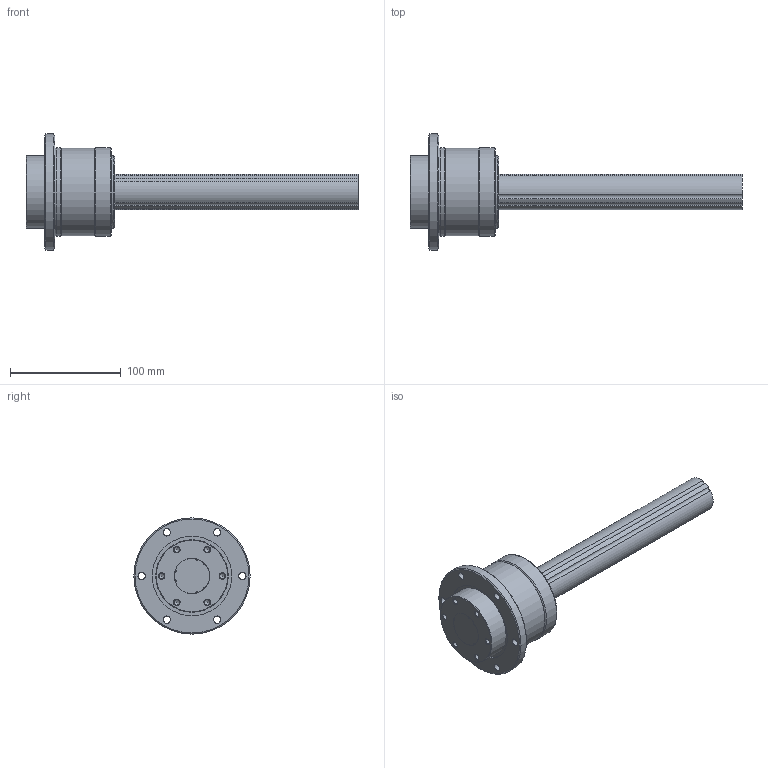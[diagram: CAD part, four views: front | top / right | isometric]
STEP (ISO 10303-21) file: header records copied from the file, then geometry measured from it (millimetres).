
FILE_DESCRIPTION(/* description */ ('STEP AP214'),/* implementation_level */ '2;1');
FILE_NAME(/* name */ 'LTR32+300L(00-)',/* time_stamp */ '2024-09-04T12:26:32+02:00',/* author */ ('License CC BY-ND 4.0'),/* organization */ ('CADENAS'),/* preprocessor_version */ 'ST-DEVELOPER v19.3',/* originating_system */ 'PARTsolutions',/* authorisation */ ' ');
FILE_SCHEMA (('AUTOMOTIVE_DESIGN {1 0 10303 214 3 1 1}'));
Length unit declared in the file: millimetre
Products named in the file (3): LTR32+300L(00-); LTR 32300 CTLTR Shaft; LTR 32 CTLTR Cyl
Assembly tree (3 placements, depth 2):
  LTR32+300L(00-)
    LTR 32300 CTLTR Shaft
    LTR 32 CTLTR Cyl  x2
Bounding box: 300 x 105 x 105 mm (x, y, z)
Volume: 886031.8 mm3; surface area: 129423.4 mm2
Topology: 3 solids, 3 shells, 120 faces, 280 edges, 180 vertices
Faces by surface type: cylinder 58, cone 36, plane 20, torus 6
Full cylindrical faces by diameter (mm): 4.917 x12, 6.6 x12, 32 x2, 65.5 x4, 72 x2, 72.05 x2, 79 x4, 80 x4, 80.6 x2, 105 x2
Entity records: 1699 total; most frequent: DIRECTION 320, CARTESIAN_POINT 255, ORIENTED_EDGE 190, AXIS2_PLACEMENT_3D 154, FACE_BOUND 138, EDGE_LOOP 132, EDGE_CURVE 95, VERTEX_POINT 89
